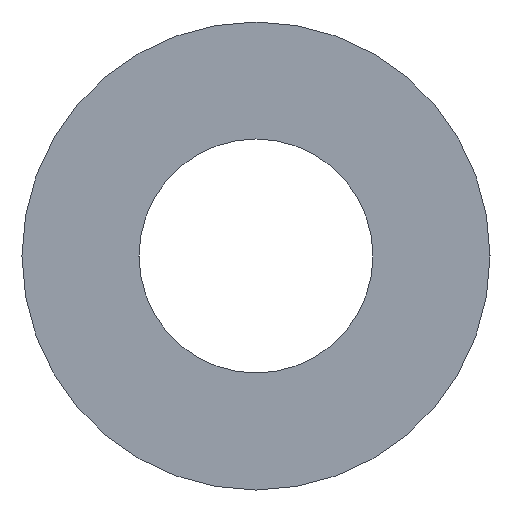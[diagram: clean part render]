
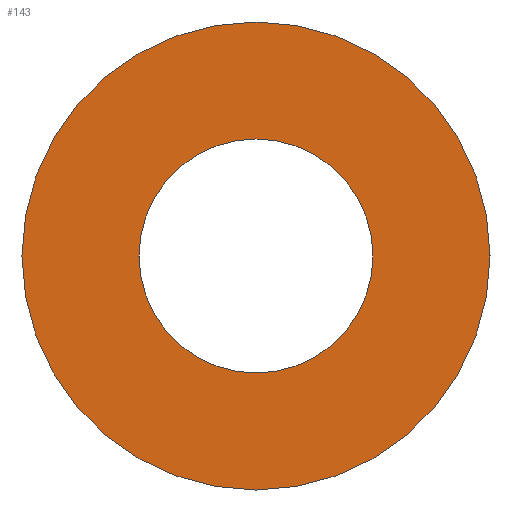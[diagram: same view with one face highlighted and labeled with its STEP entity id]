
A CAD part, left-side view. The second image highlights one B-rep face of the part: STEP entity #143.
In plain terms, the highlighted planar face has unit normal (-1, 0, 0).
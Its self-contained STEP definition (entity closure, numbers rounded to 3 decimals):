
#20=PLANE('',#174);
#32=ORIENTED_EDGE('',*,*,#56,.T.);
#33=ORIENTED_EDGE('',*,*,#55,.F.);
#55=EDGE_CURVE('',#67,#67,#79,.T.);
#56=EDGE_CURVE('',#68,#68,#80,.T.);
#67=VERTEX_POINT('',#254);
#68=VERTEX_POINT('',#257);
#79=CIRCLE('',#173,5.);
#80=CIRCLE('',#175,2.5);
#92=EDGE_LOOP('',(#32));
#93=EDGE_LOOP('',(#33));
#116=FACE_BOUND('',#92,.T.);
#117=FACE_BOUND('',#93,.T.);
#143=ADVANCED_FACE('',(#116,#117),#20,.F.);
#173=AXIS2_PLACEMENT_3D('',#253,#207,#208);
#174=AXIS2_PLACEMENT_3D('',#255,#209,#210);
#175=AXIS2_PLACEMENT_3D('',#256,#211,#212);
#207=DIRECTION('',(1.,0.,0.));
#208=DIRECTION('',(0.,0.,-1.));
#209=DIRECTION('',(1.,0.,0.));
#210=DIRECTION('',(0.,0.,-1.));
#211=DIRECTION('',(1.,0.,0.));
#212=DIRECTION('',(0.,0.,-1.));
#253=CARTESIAN_POINT('',(-14.,0.,0.));
#254=CARTESIAN_POINT('',(-14.,0.,-5.));
#255=CARTESIAN_POINT('',(-14.,0.,0.));
#256=CARTESIAN_POINT('',(-14.,0.,0.));
#257=CARTESIAN_POINT('',(-14.,0.,-2.5));
